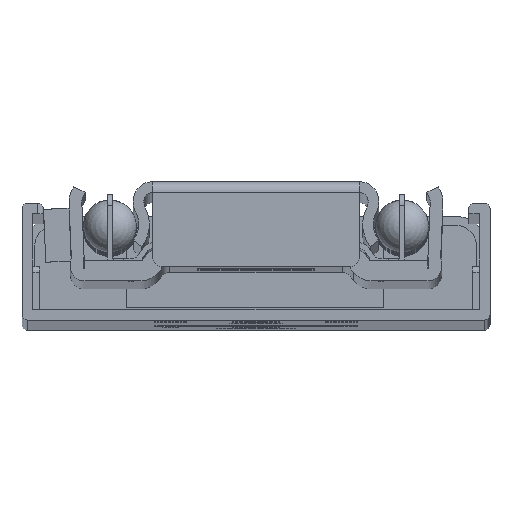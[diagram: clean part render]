
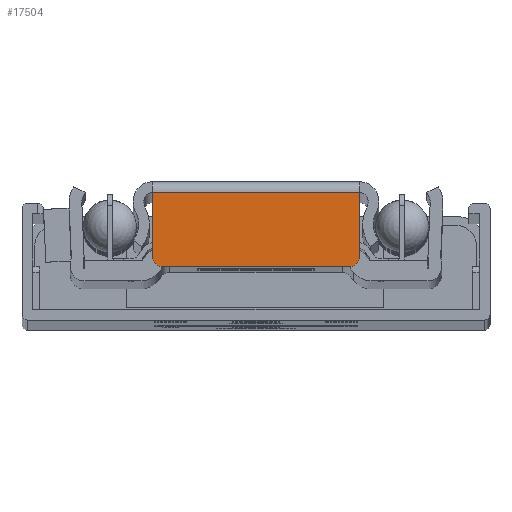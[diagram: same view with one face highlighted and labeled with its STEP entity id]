
A CAD part, top view. The second image highlights one B-rep face of the part: STEP entity #17504.
In plain terms, the highlighted planar face has unit normal (0, 0, 1).
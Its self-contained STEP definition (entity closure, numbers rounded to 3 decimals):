
#812=PLANE('',#19147);
#1666=FACE_OUTER_BOUND('',#2701,.T.);
#2701=EDGE_LOOP('',(#15993,#15994,#15995,#15996,#15997,#15998));
#4429=LINE('',#29420,#6177);
#4430=LINE('',#29423,#6178);
#4431=LINE('',#29427,#6179);
#4432=LINE('',#29430,#6180);
#6177=VECTOR('',#24008,10.);
#6178=VECTOR('',#24011,10.);
#6179=VECTOR('',#24014,10.);
#6180=VECTOR('',#24017,10.);
#7001=CIRCLE('',#19148,1.);
#7002=CIRCLE('',#19149,1.);
#8622=VERTEX_POINT('',#29413);
#8625=VERTEX_POINT('',#29418);
#8626=VERTEX_POINT('',#29422);
#8627=VERTEX_POINT('',#29424);
#8628=VERTEX_POINT('',#29426);
#8629=VERTEX_POINT('',#29428);
#11127=EDGE_CURVE('',#8625,#8622,#4429,.T.);
#11128=EDGE_CURVE('',#8625,#8626,#4430,.T.);
#11129=EDGE_CURVE('',#8627,#8626,#7001,.T.);
#11130=EDGE_CURVE('',#8627,#8628,#4431,.T.);
#11131=EDGE_CURVE('',#8629,#8628,#7002,.T.);
#11132=EDGE_CURVE('',#8622,#8629,#4432,.T.);
#15993=ORIENTED_EDGE('',*,*,#11127,.F.);
#15994=ORIENTED_EDGE('',*,*,#11128,.T.);
#15995=ORIENTED_EDGE('',*,*,#11129,.F.);
#15996=ORIENTED_EDGE('',*,*,#11130,.T.);
#15997=ORIENTED_EDGE('',*,*,#11131,.F.);
#15998=ORIENTED_EDGE('',*,*,#11132,.F.);
#17504=ADVANCED_FACE('',(#1666),#812,.T.);
#19147=AXIS2_PLACEMENT_3D('',#29421,#24009,#24010);
#19148=AXIS2_PLACEMENT_3D('',#29425,#24012,#24013);
#19149=AXIS2_PLACEMENT_3D('',#29429,#24015,#24016);
#24008=DIRECTION('',(-1.,0.,0.));
#24009=DIRECTION('center_axis',(0.,0.,1.));
#24010=DIRECTION('ref_axis',(1.,0.,0.));
#24011=DIRECTION('',(0.,1.,0.));
#24012=DIRECTION('center_axis',(0.,0.,-1.));
#24013=DIRECTION('ref_axis',(0.707,0.707,0.));
#24014=DIRECTION('',(-1.,0.,0.));
#24015=DIRECTION('center_axis',(0.,0.,-1.));
#24016=DIRECTION('ref_axis',(-0.707,0.707,0.));
#24017=DIRECTION('',(0.,1.,0.));
#29413=CARTESIAN_POINT('',(4.892,-4.95,549.));
#29418=CARTESIAN_POINT('',(24.354,-4.95,549.));
#29420=CARTESIAN_POINT('',(19.501,-4.95,549.));
#29421=CARTESIAN_POINT('Origin',(24.354,-5.95,549.));
#29422=CARTESIAN_POINT('',(24.354,1.05,549.));
#29423=CARTESIAN_POINT('',(24.354,-5.95,549.));
#29424=CARTESIAN_POINT('',(23.354,2.05,549.));
#29425=CARTESIAN_POINT('Origin',(23.354,1.05,549.));
#29426=CARTESIAN_POINT('',(5.892,2.05,549.));
#29427=CARTESIAN_POINT('',(24.354,2.05,549.));
#29428=CARTESIAN_POINT('',(4.892,1.05,549.));
#29429=CARTESIAN_POINT('Origin',(5.892,1.05,549.));
#29430=CARTESIAN_POINT('',(4.892,-5.95,549.));
